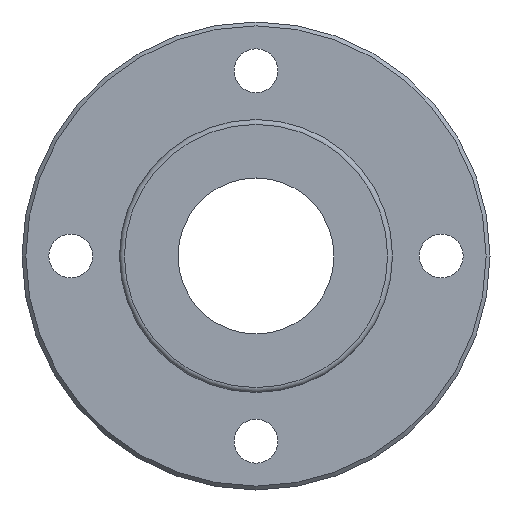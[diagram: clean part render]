
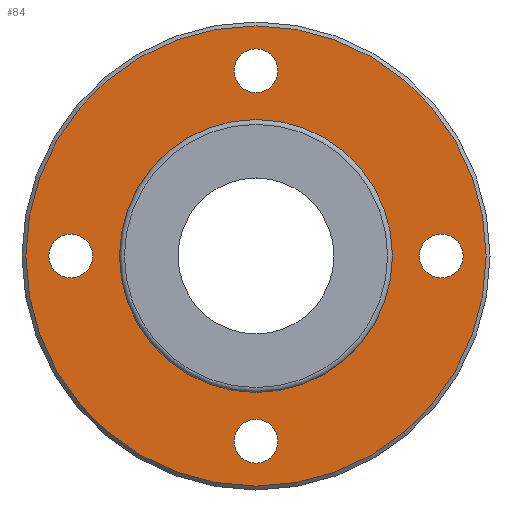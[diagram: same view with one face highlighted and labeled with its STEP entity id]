
A CAD part, left-side view. The second image highlights one B-rep face of the part: STEP entity #84.
In plain terms, the highlighted planar face has unit normal (-1, 0, 0).
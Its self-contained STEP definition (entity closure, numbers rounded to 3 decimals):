
#84=ADVANCED_FACE('',(#131,#132,#133,#134,#135,#136),#137,.T.);
#131=FACE_OUTER_BOUND('',#223,.T.);
#132=FACE_BOUND('',#224,.T.);
#133=FACE_BOUND('',#225,.T.);
#134=FACE_BOUND('',#226,.T.);
#135=FACE_BOUND('',#227,.T.);
#136=FACE_BOUND('',#228,.T.);
#137=PLANE('',#229);
#223=EDGE_LOOP('',(#333));
#224=EDGE_LOOP('',(#334));
#225=EDGE_LOOP('',(#335));
#226=EDGE_LOOP('',(#336));
#227=EDGE_LOOP('',(#337));
#228=EDGE_LOOP('',(#338));
#229=AXIS2_PLACEMENT_3D('',#339,#340,#341);
#333=ORIENTED_EDGE('',*,*,#451,.T.);
#334=ORIENTED_EDGE('',*,*,#452,.F.);
#335=ORIENTED_EDGE('',*,*,#453,.T.);
#336=ORIENTED_EDGE('',*,*,#454,.T.);
#337=ORIENTED_EDGE('',*,*,#449,.T.);
#338=ORIENTED_EDGE('',*,*,#455,.T.);
#339=CARTESIAN_POINT('',(-6.0,18.55,0.));
#340=DIRECTION('',(-1.0,0.,0.));
#341=DIRECTION('',(0.,0.0,1.0));
#449=EDGE_CURVE('',#494,#494,#495,.T.);
#451=EDGE_CURVE('',#498,#498,#499,.T.);
#452=EDGE_CURVE('',#500,#500,#501,.T.);
#453=EDGE_CURVE('',#502,#502,#503,.T.);
#454=EDGE_CURVE('',#504,#504,#505,.T.);
#455=EDGE_CURVE('',#506,#506,#507,.T.);
#494=VERTEX_POINT('',#558);
#495=CIRCLE('',#559,2.25);
#498=VERTEX_POINT('',#562);
#499=CIRCLE('',#563,23.6);
#500=VERTEX_POINT('',#564);
#501=CIRCLE('',#565,13.5);
#502=VERTEX_POINT('',#566);
#503=CIRCLE('',#567,2.25);
#504=VERTEX_POINT('',#568);
#505=CIRCLE('',#569,2.25);
#506=VERTEX_POINT('',#570);
#507=CIRCLE('',#571,2.25);
#558=CARTESIAN_POINT('',(-6.0,0.,21.25));
#559=AXIS2_PLACEMENT_3D('',#635,#636,#637);
#562=CARTESIAN_POINT('',(-6.0,23.6,0.));
#563=AXIS2_PLACEMENT_3D('',#641,#642,#643);
#564=CARTESIAN_POINT('',(-6.0,13.5,0.));
#565=AXIS2_PLACEMENT_3D('',#644,#645,#646);
#566=CARTESIAN_POINT('',(-6.0,19.0,2.25));
#567=AXIS2_PLACEMENT_3D('',#647,#648,#649);
#568=CARTESIAN_POINT('',(-6.0,-19.0,2.25));
#569=AXIS2_PLACEMENT_3D('',#650,#651,#652);
#570=CARTESIAN_POINT('',(-6.0,0.,-16.75));
#571=AXIS2_PLACEMENT_3D('',#653,#654,#655);
#635=CARTESIAN_POINT('',(-6.0,0.,19.0));
#636=DIRECTION('',(1.0,0.,0.));
#637=DIRECTION('',(0.,0.0,-1.0));
#641=CARTESIAN_POINT('',(-6.0,0.,0.));
#642=DIRECTION('',(-1.0,0.0,0.));
#643=DIRECTION('',(0.0,1.0,0.0));
#644=CARTESIAN_POINT('',(-6.0,0.,0.));
#645=DIRECTION('',(-1.0,0.0,0.));
#646=DIRECTION('',(0.0,1.0,0.0));
#647=CARTESIAN_POINT('',(-6.0,19.0,0.));
#648=DIRECTION('',(1.0,0.,0.));
#649=DIRECTION('',(0.,0.0,-1.0));
#650=CARTESIAN_POINT('',(-6.0,-19.0,0.));
#651=DIRECTION('',(1.0,0.,0.));
#652=DIRECTION('',(0.,0.0,-1.0));
#653=CARTESIAN_POINT('',(-6.0,0.,-19.0));
#654=DIRECTION('',(1.0,0.,0.));
#655=DIRECTION('',(0.,0.0,-1.0));
